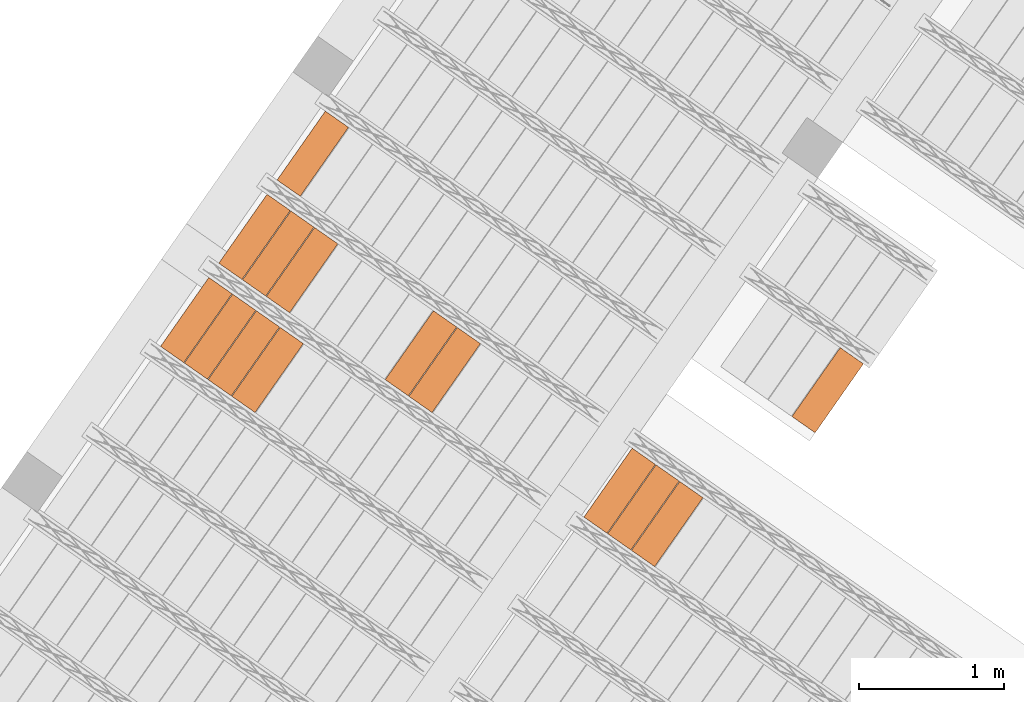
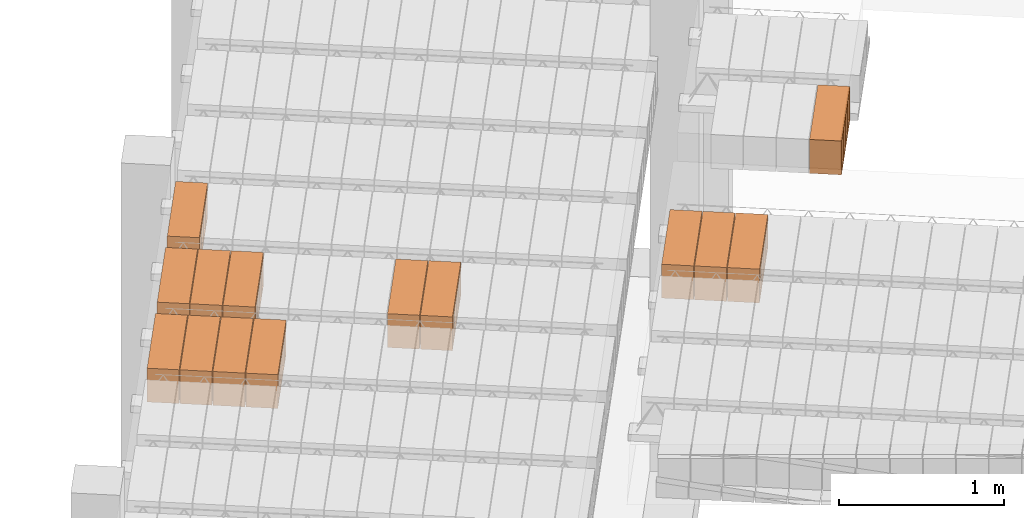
# One storey, part 67 of 80: 14 proxies.
"""IFC2X3 building model written with IfcOpenShell, lengths in metres."""

from ifc_helpers import new_model, entity, si_unit, converted_unit, derived_unit, direction, frame, origin, place, context, subcontext, project, spatial, polyline, outline, extrude, type_object, element, save


model = new_model("IFC2X3")

# Units and contexts
model_context = context("Model", 3, precision=1e-05, world=origin(), true_north=direction((6.123031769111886e-17, 1.0)))
body_context = subcontext(model_context, "Body", "Model", "MODEL_VIEW")
ifc_project = project(units=[si_unit("LENGTHUNIT", "METRE"), si_unit("AREAUNIT", "SQUARE_METRE"), si_unit("VOLUMEUNIT", "CUBIC_METRE"), converted_unit("PLANEANGLEUNIT", "DEGREE", entity("IfcPlaneAngleMeasure", 0.017453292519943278), si_unit("PLANEANGLEUNIT", "RADIAN"), dimensions=[0, 0, 0, 0, 0, 0, 0]), si_unit("MASSUNIT", "GRAM", prefix="KILO"), derived_unit("MASSDENSITYUNIT", [(si_unit("MASSUNIT", "GRAM", prefix="KILO"), 1), (si_unit("LENGTHUNIT", "METRE"), -3)]), derived_unit("IONCONCENTRATIONUNIT", [(si_unit("MASSUNIT", "GRAM", prefix="KILO"), 1), (si_unit("LENGTHUNIT", "METRE"), -3)]), derived_unit("MOMENTOFINERTIAUNIT", [(si_unit("LENGTHUNIT", "METRE"), 4)]), si_unit("TIMEUNIT", "SECOND"), si_unit("FREQUENCYUNIT", "HERTZ"), si_unit("THERMODYNAMICTEMPERATUREUNIT", "DEGREE_CELSIUS"), derived_unit("THERMALTRANSMITTANCEUNIT", [(si_unit("MASSUNIT", "GRAM", prefix="KILO"), 1), (si_unit("THERMODYNAMICTEMPERATUREUNIT", "KELVIN"), -1), (si_unit("TIMEUNIT", "SECOND"), -3)]), derived_unit("THERMALCONDUCTANCEUNIT", [(si_unit("MASSUNIT", "GRAM", prefix="KILO"), 1), (si_unit("THERMODYNAMICTEMPERATUREUNIT", "KELVIN"), -1), (si_unit("TIMEUNIT", "SECOND"), -3), (si_unit("LENGTHUNIT", "METRE"), 1)]), derived_unit("VOLUMETRICFLOWRATEUNIT", [(si_unit("LENGTHUNIT", "METRE", prefix="DECI"), 3), (si_unit("TIMEUNIT", "SECOND"), -1)]), derived_unit("MASSFLOWRATEUNIT", [(si_unit("MASSUNIT", "GRAM", prefix="KILO"), 1), (si_unit("TIMEUNIT", "SECOND"), -1)]), derived_unit("ROTATIONALFREQUENCYUNIT", [(si_unit("TIMEUNIT", "SECOND"), -1)]), si_unit("ELECTRICCURRENTUNIT", "AMPERE"), si_unit("ELECTRICVOLTAGEUNIT", "VOLT"), si_unit("POWERUNIT", "WATT"), si_unit("FORCEUNIT", "NEWTON", prefix="KILO"), si_unit("ILLUMINANCEUNIT", "LUX"), si_unit("LUMINOUSFLUXUNIT", "LUMEN"), si_unit("LUMINOUSINTENSITYUNIT", "CANDELA"), si_unit("ENERGYUNIT", "JOULE"), derived_unit("USERDEFINED", [(si_unit("MASSUNIT", "GRAM", prefix="KILO"), -1), (si_unit("LENGTHUNIT", "METRE"), -2), (si_unit("TIMEUNIT", "SECOND"), 3), (si_unit("LUMINOUSFLUXUNIT", "LUMEN"), 1)]), derived_unit("USERDEFINED", [(si_unit("MASSUNIT", "GRAM", prefix="KILO"), 1), (si_unit("TIMEUNIT", "SECOND"), -3), (si_unit("LENGTHUNIT", "METRE"), 3), (si_unit("ELECTRICCURRENTUNIT", "AMPERE"), -2)]), derived_unit("SOUNDPOWERUNIT", [(si_unit("MASSUNIT", "GRAM", prefix="KILO"), 1), (si_unit("TIMEUNIT", "SECOND"), -3), (si_unit("LENGTHUNIT", "METRE"), 2)]), derived_unit("SOUNDPRESSUREUNIT", [(si_unit("MASSUNIT", "GRAM", prefix="KILO"), 1), (si_unit("LENGTHUNIT", "METRE"), -1), (si_unit("TIMEUNIT", "SECOND"), -2)]), derived_unit("LINEARVELOCITYUNIT", [(si_unit("LENGTHUNIT", "METRE"), 1), (si_unit("TIMEUNIT", "SECOND"), -1)]), si_unit("PRESSUREUNIT", "PASCAL"), derived_unit("USERDEFINED", [(si_unit("MASSUNIT", "GRAM", prefix="KILO"), 1), (si_unit("LENGTHUNIT", "METRE"), -2), (si_unit("TIMEUNIT", "SECOND"), -2)]), derived_unit("LINEARFORCEUNIT", [(si_unit("MASSUNIT", "GRAM", prefix="KILO"), 1), (si_unit("TIMEUNIT", "SECOND"), -2)]), derived_unit("PLANARFORCEUNIT", [(si_unit("MASSUNIT", "GRAM", prefix="KILO"), 1), (si_unit("LENGTHUNIT", "METRE"), -1), (si_unit("TIMEUNIT", "SECOND"), -2)]), derived_unit("SPECIFICHEATCAPACITYUNIT", [(si_unit("THERMODYNAMICTEMPERATUREUNIT", "KELVIN"), -1), (si_unit("LENGTHUNIT", "METRE"), 2), (si_unit("TIMEUNIT", "SECOND"), -2)]), derived_unit("HEATFLUXDENSITYUNIT", [(si_unit("MASSUNIT", "GRAM", prefix="KILO"), 1), (si_unit("TIMEUNIT", "SECOND"), -3)]), derived_unit("HEATINGVALUEUNIT", [(si_unit("LENGTHUNIT", "METRE"), 2), (si_unit("TIMEUNIT", "SECOND"), -2)]), derived_unit("VAPORPERMEABILITYUNIT", [(si_unit("LENGTHUNIT", "METRE"), -1), (si_unit("TIMEUNIT", "SECOND"), 1)]), derived_unit("DYNAMICVISCOSITYUNIT", [(si_unit("MASSUNIT", "GRAM", prefix="KILO"), 1), (si_unit("TIMEUNIT", "SECOND"), -1), (si_unit("LENGTHUNIT", "METRE"), -1)]), derived_unit("THERMALEXPANSIONCOEFFICIENTUNIT", [(si_unit("THERMODYNAMICTEMPERATUREUNIT", "KELVIN"), -1)]), derived_unit("MODULUSOFELASTICITYUNIT", [(si_unit("MASSUNIT", "GRAM", prefix="KILO"), 1), (si_unit("LENGTHUNIT", "METRE"), -1), (si_unit("TIMEUNIT", "SECOND"), -2)]), derived_unit("ISOTHERMALMOISTURECAPACITYUNIT", [(si_unit("MASSUNIT", "GRAM", prefix="KILO"), -1), (si_unit("LENGTHUNIT", "METRE"), 3)]), derived_unit("MOISTUREDIFFUSIVITYUNIT", [(si_unit("TIMEUNIT", "SECOND"), -1), (si_unit("LENGTHUNIT", "METRE"), 2)]), derived_unit("MASSPERLENGTHUNIT", [(si_unit("MASSUNIT", "GRAM", prefix="KILO"), 1), (si_unit("LENGTHUNIT", "METRE"), -1)]), derived_unit("THERMALRESISTANCEUNIT", [(si_unit("MASSUNIT", "GRAM", prefix="KILO"), -1), (si_unit("TIMEUNIT", "SECOND"), 3), (si_unit("THERMODYNAMICTEMPERATUREUNIT", "KELVIN"), 1)]), derived_unit("ACCELERATIONUNIT", [(si_unit("LENGTHUNIT", "METRE"), 1), (si_unit("TIMEUNIT", "SECOND"), -2)]), derived_unit("ANGULARVELOCITYUNIT", [(si_unit("TIMEUNIT", "SECOND"), -1), (si_unit("PLANEANGLEUNIT", "RADIAN"), 1)]), derived_unit("LINEARSTIFFNESSUNIT", [(si_unit("MASSUNIT", "GRAM", prefix="KILO"), 1), (si_unit("TIMEUNIT", "SECOND"), -2)]), derived_unit("WARPINGCONSTANTUNIT", [(si_unit("LENGTHUNIT", "METRE"), 6)]), derived_unit("LINEARMOMENTUNIT", [(si_unit("MASSUNIT", "GRAM", prefix="KILO"), 1), (si_unit("LENGTHUNIT", "METRE"), 1), (si_unit("TIMEUNIT", "SECOND"), -2)]), derived_unit("TORQUEUNIT", [(si_unit("MASSUNIT", "GRAM", prefix="KILO"), 1), (si_unit("LENGTHUNIT", "METRE"), 2), (si_unit("TIMEUNIT", "SECOND"), -2)])], contexts=[model_context])

# Site, building, storey
site_placement = place(None, origin())
site = spatial("IfcSite", under=ifc_project, at=site_placement, Name="Default", CompositionType="ELEMENT")
building_placement = place(site_placement, origin())
building = spatial("IfcBuilding", under=site, at=building_placement, CompositionType="ELEMENT")
storey_placement = place(building_placement, frame((0.0, 0.0, 95.94)))
storey = spatial("IfcBuildingStorey", under=building, at=storey_placement, Name="PB", CompositionType="ELEMENT", Elevation=95.94)

# Proxies
building_element_proxy_type_1 = type_object("IfcBuildingElementProxyType", Name="Bovedilla 7-11 (Paño 2)", PredefinedType="USERDEFINED")
proxy_1_placement = place(storey_placement, origin())
element("IfcBuildingElementProxy", 1, at=proxy_1_placement, inside=storey, type_object=building_element_proxy_type_1, Name="Bovedilla 7-11 (Paño 2)", ObjectType="FORM", context=body_context, shape_type="SweptSolid", body=[
    extrude(outline(polyline([(-0.28999999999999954, -0.12500000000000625), (0.28999999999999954, -0.12500000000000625), (0.28999999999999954, 0.12500000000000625), (-0.28999999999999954, 0.12500000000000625), (-0.28999999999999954, -0.12500000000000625)]), holes=[polyline([(0.2699999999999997, -0.10499999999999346), (0.15500000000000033, -0.10499999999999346), (0.15500000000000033, 0.10499999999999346), (0.2699999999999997, 0.10499999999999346), (0.2699999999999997, 0.042499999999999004), (0.2699999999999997, -0.10499999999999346)]), polyline([(0.00999999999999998, -0.10499999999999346), (0.00999999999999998, 0.10499999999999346), (0.1350000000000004, 0.10499999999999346), (0.1350000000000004, -0.10499999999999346), (0.00999999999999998, -0.10499999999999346)]), polyline([(-0.1350000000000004, 0.10499999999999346), (-0.00999999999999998, 0.10499999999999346), (-0.00999999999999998, -0.10499999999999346), (-0.1350000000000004, -0.10499999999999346), (-0.1350000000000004, 0.10499999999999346)]), polyline([(-0.2699999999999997, -0.10499999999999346), (-0.2699999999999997, 0.042499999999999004), (-0.2699999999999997, 0.10499999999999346), (-0.15500000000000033, 0.10499999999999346), (-0.15500000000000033, -0.10499999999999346), (-0.2699999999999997, -0.10499999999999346)])]), frame((1.994544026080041, 6.050474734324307, 2.945000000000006), z_axis=(0.8191520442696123, -0.5735764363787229, 0.0), x_axis=(-0.5735764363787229, -0.8191520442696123, 0.0)), (0.0, 0.0, 1.0), 0.19499999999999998),
])
building_element_proxy_type_2 = type_object("IfcBuildingElementProxyType", Name="Bovedilla 7-12 (Paño 2)", PredefinedType="USERDEFINED")
proxy_2_placement = place(storey_placement, origin())
element("IfcBuildingElementProxy", 2, at=proxy_2_placement, inside=storey, type_object=building_element_proxy_type_2, Name="Bovedilla 7-12 (Paño 2)", ObjectType="FORM", context=body_context, shape_type="SweptSolid", body=[
    extrude(outline(polyline([(-0.28999999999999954, -0.12500000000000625), (0.28999999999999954, -0.12500000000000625), (0.28999999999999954, 0.12500000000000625), (-0.28999999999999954, 0.12500000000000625), (-0.28999999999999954, -0.12500000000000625)]), holes=[polyline([(0.2699999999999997, -0.10499999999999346), (0.15500000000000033, -0.10499999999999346), (0.15500000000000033, 0.10499999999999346), (0.2699999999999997, 0.10499999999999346), (0.2699999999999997, 0.042499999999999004), (0.2699999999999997, -0.10499999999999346)]), polyline([(0.00999999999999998, -0.10499999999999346), (0.00999999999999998, 0.10499999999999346), (0.1350000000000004, 0.10499999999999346), (0.1350000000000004, -0.10499999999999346), (0.00999999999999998, -0.10499999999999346)]), polyline([(-0.1350000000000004, 0.10499999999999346), (-0.00999999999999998, 0.10499999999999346), (-0.00999999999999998, -0.10499999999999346), (-0.1350000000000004, -0.10499999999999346), (-0.1350000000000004, 0.10499999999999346)]), polyline([(-0.2699999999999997, -0.10499999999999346), (-0.2699999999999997, 0.042499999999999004), (-0.2699999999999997, 0.10499999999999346), (-0.15500000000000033, 0.10499999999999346), (-0.15500000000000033, -0.10499999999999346), (-0.2699999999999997, -0.10499999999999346)])]), frame((1.8307136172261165, 6.165190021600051, 2.945000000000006), z_axis=(0.8191520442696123, -0.5735764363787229, 0.0), x_axis=(-0.5735764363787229, -0.8191520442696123, 0.0)), (0.0, 0.0, 1.0), 0.19499999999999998),
])
building_element_proxy_type_3 = type_object("IfcBuildingElementProxyType", Name="Bovedilla 7-13 (Paño 2)", PredefinedType="USERDEFINED")
proxy_3_placement = place(storey_placement, origin())
element("IfcBuildingElementProxy", 3, at=proxy_3_placement, inside=storey, type_object=building_element_proxy_type_3, Name="Bovedilla 7-13 (Paño 2)", ObjectType="FORM", context=body_context, shape_type="SweptSolid", body=[
    extrude(outline(polyline([(-0.28999999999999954, -0.12500000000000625), (0.28999999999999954, -0.12500000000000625), (0.28999999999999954, 0.12500000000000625), (-0.28999999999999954, 0.12500000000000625), (-0.28999999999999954, -0.12500000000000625)]), holes=[polyline([(0.2699999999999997, -0.10499999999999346), (0.15500000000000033, -0.10499999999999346), (0.15500000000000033, 0.10499999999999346), (0.2699999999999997, 0.10499999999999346), (0.2699999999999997, 0.042499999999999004), (0.2699999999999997, -0.10499999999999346)]), polyline([(0.00999999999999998, -0.10499999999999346), (0.00999999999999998, 0.10499999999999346), (0.1350000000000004, 0.10499999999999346), (0.1350000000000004, -0.10499999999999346), (0.00999999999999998, -0.10499999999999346)]), polyline([(-0.1350000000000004, 0.10499999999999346), (-0.00999999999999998, 0.10499999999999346), (-0.00999999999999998, -0.10499999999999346), (-0.1350000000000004, -0.10499999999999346), (-0.1350000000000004, 0.10499999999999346)]), polyline([(-0.2699999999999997, -0.10499999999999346), (-0.2699999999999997, 0.042499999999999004), (-0.2699999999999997, 0.10499999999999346), (-0.15500000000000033, 0.10499999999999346), (-0.15500000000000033, -0.10499999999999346), (-0.2699999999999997, -0.10499999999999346)])]), frame((1.666883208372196, 6.279905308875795, 2.945000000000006), z_axis=(0.8191520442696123, -0.5735764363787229, 0.0), x_axis=(-0.5735764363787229, -0.8191520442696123, 0.0)), (0.0, 0.0, 1.0), 0.19499999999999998),
])
building_element_proxy_type_4 = type_object("IfcBuildingElementProxyType", Name="Bovedilla 7-14 (Paño 2)", PredefinedType="USERDEFINED")
proxy_4_placement = place(storey_placement, origin())
element("IfcBuildingElementProxy", 4, at=proxy_4_placement, inside=storey, type_object=building_element_proxy_type_4, Name="Bovedilla 7-14 (Paño 2)", ObjectType="FORM", context=body_context, shape_type="SweptSolid", body=[
    extrude(outline(polyline([(-0.28999999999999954, -0.12500000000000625), (0.28999999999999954, -0.12500000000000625), (0.28999999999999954, 0.12500000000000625), (-0.28999999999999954, 0.12500000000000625), (-0.28999999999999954, -0.12500000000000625)]), holes=[polyline([(0.2699999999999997, -0.10499999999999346), (0.15500000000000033, -0.10499999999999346), (0.15500000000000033, 0.10499999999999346), (0.2699999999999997, 0.10499999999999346), (0.2699999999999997, 0.042499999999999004), (0.2699999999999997, -0.10499999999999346)]), polyline([(0.00999999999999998, -0.10499999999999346), (0.00999999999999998, 0.10499999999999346), (0.1350000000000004, 0.10499999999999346), (0.1350000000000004, -0.10499999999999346), (0.00999999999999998, -0.10499999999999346)]), polyline([(-0.1350000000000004, 0.10499999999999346), (-0.00999999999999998, 0.10499999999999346), (-0.00999999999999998, -0.10499999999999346), (-0.1350000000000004, -0.10499999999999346), (-0.1350000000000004, 0.10499999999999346)]), polyline([(-0.2699999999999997, -0.10499999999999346), (-0.2699999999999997, 0.042499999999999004), (-0.2699999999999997, 0.10499999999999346), (-0.15500000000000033, 0.10499999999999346), (-0.15500000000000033, -0.10499999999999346), (-0.2699999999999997, -0.10499999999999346)])]), frame((1.5030527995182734, 6.3946205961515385, 2.945000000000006), z_axis=(0.8191520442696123, -0.5735764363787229, 0.0), x_axis=(-0.5735764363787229, -0.8191520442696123, 0.0)), (0.0, 0.0, 1.0), 0.19499999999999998),
])
building_element_proxy_type_5 = type_object("IfcBuildingElementProxyType", Name="Bovedilla 8-6 (Paño 2)", PredefinedType="USERDEFINED")
proxy_5_placement = place(storey_placement, origin())
element("IfcBuildingElementProxy", 5, at=proxy_5_placement, inside=storey, type_object=building_element_proxy_type_5, Name="Bovedilla 8-6 (Paño 2)", ObjectType="FORM", context=body_context, shape_type="SweptSolid", body=[
    extrude(outline(polyline([(-0.28999999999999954, -0.12500000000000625), (0.28999999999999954, -0.12500000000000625), (0.28999999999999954, 0.12500000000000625), (-0.28999999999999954, 0.12500000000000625), (-0.28999999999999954, -0.12500000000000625)]), holes=[polyline([(0.2699999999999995, -0.10499999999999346), (0.15500000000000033, -0.10499999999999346), (0.15500000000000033, 0.10499999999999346), (0.2699999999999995, 0.10499999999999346), (0.2699999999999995, 0.042499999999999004), (0.2699999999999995, -0.10499999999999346)]), polyline([(0.009999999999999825, -0.10499999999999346), (0.009999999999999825, 0.10499999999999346), (0.1350000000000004, 0.10499999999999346), (0.1350000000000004, -0.10499999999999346), (0.009999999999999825, -0.10499999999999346)]), polyline([(-0.1350000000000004, 0.10499999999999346), (-0.009999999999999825, 0.10499999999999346), (-0.009999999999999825, -0.10499999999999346), (-0.1350000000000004, -0.10499999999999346), (-0.1350000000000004, 0.10499999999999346)]), polyline([(-0.2699999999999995, -0.10499999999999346), (-0.2699999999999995, 0.042499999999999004), (-0.2699999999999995, 0.10499999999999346), (-0.15500000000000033, 0.10499999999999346), (-0.15500000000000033, -0.10499999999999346), (-0.2699999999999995, -0.10499999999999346)])]), frame((3.21519957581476, 6.050304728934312, 2.945000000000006), z_axis=(0.8191520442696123, -0.5735764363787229, 0.0), x_axis=(-0.5735764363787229, -0.8191520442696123, 0.0)), (0.0, 0.0, 1.0), 0.19499999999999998),
])
building_element_proxy_type_6 = type_object("IfcBuildingElementProxyType", Name="Bovedilla 8-7 (Paño 2)", PredefinedType="USERDEFINED")
proxy_6_placement = place(storey_placement, origin())
element("IfcBuildingElementProxy", 6, at=proxy_6_placement, inside=storey, type_object=building_element_proxy_type_6, Name="Bovedilla 8-7 (Paño 2)", ObjectType="FORM", context=body_context, shape_type="SweptSolid", body=[
    extrude(outline(polyline([(-0.28999999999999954, -0.12500000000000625), (0.28999999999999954, -0.12500000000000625), (0.28999999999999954, 0.12500000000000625), (-0.28999999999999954, 0.12500000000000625), (-0.28999999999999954, -0.12500000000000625)]), holes=[polyline([(0.2699999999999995, -0.10499999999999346), (0.15500000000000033, -0.10499999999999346), (0.15500000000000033, 0.10499999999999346), (0.2699999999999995, 0.10499999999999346), (0.2699999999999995, 0.042499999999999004), (0.2699999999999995, -0.10499999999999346)]), polyline([(0.009999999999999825, -0.10499999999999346), (0.009999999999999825, 0.10499999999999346), (0.1350000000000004, 0.10499999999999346), (0.1350000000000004, -0.10499999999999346), (0.009999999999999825, -0.10499999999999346)]), polyline([(-0.1350000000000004, 0.10499999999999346), (-0.009999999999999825, 0.10499999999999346), (-0.009999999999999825, -0.10499999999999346), (-0.1350000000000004, -0.10499999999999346), (-0.1350000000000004, 0.10499999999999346)]), polyline([(-0.2699999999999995, -0.10499999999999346), (-0.2699999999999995, 0.042499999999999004), (-0.2699999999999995, 0.10499999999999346), (-0.15500000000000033, 0.10499999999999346), (-0.15500000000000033, -0.10499999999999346), (-0.2699999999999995, -0.10499999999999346)])]), frame((3.0513691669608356, 6.165020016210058, 2.945000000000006), z_axis=(0.8191520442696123, -0.5735764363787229, 0.0), x_axis=(-0.5735764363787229, -0.8191520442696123, 0.0)), (0.0, 0.0, 1.0), 0.19499999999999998),
])
building_element_proxy_type_7 = type_object("IfcBuildingElementProxyType", Name="Bovedilla 8-12 (Paño 2)", PredefinedType="USERDEFINED")
proxy_7_placement = place(storey_placement, origin())
element("IfcBuildingElementProxy", 7, at=proxy_7_placement, inside=storey, type_object=building_element_proxy_type_7, Name="Bovedilla 8-12 (Paño 2)", ObjectType="FORM", context=body_context, shape_type="SweptSolid", body=[
    extrude(outline(polyline([(-0.28999999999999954, -0.12500000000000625), (0.28999999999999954, -0.12500000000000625), (0.28999999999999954, 0.12500000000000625), (-0.28999999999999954, 0.12500000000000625), (-0.28999999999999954, -0.12500000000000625)]), holes=[polyline([(0.2699999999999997, -0.10499999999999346), (0.15500000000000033, -0.10499999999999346), (0.15500000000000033, 0.10499999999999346), (0.2699999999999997, 0.10499999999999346), (0.2699999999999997, 0.042499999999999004), (0.2699999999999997, -0.10499999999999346)]), polyline([(0.00999999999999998, -0.10499999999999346), (0.00999999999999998, 0.10499999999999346), (0.1350000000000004, 0.10499999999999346), (0.1350000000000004, -0.10499999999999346), (0.00999999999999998, -0.10499999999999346)]), polyline([(-0.1350000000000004, 0.10499999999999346), (-0.00999999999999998, 0.10499999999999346), (-0.00999999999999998, -0.10499999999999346), (-0.1350000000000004, -0.10499999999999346), (-0.1350000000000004, 0.10499999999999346)]), polyline([(-0.2699999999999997, -0.10499999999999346), (-0.2699999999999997, 0.042499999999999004), (-0.2699999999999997, 0.10499999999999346), (-0.15500000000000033, 0.10499999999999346), (-0.15500000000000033, -0.10499999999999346), (-0.2699999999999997, -0.10499999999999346)])]), frame((2.232217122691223, 6.73859645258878, 2.945000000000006), z_axis=(0.8191520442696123, -0.5735764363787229, 0.0), x_axis=(-0.5735764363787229, -0.8191520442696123, 0.0)), (0.0, 0.0, 1.0), 0.19499999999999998),
])
building_element_proxy_type_8 = type_object("IfcBuildingElementProxyType", Name="Bovedilla 8-13 (Paño 2)", PredefinedType="USERDEFINED")
proxy_8_placement = place(storey_placement, origin())
element("IfcBuildingElementProxy", 8, at=proxy_8_placement, inside=storey, type_object=building_element_proxy_type_8, Name="Bovedilla 8-13 (Paño 2)", ObjectType="FORM", context=body_context, shape_type="SweptSolid", body=[
    extrude(outline(polyline([(-0.28999999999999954, -0.12500000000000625), (0.28999999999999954, -0.12500000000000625), (0.28999999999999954, 0.12500000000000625), (-0.28999999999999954, 0.12500000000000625), (-0.28999999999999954, -0.12500000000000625)]), holes=[polyline([(0.2699999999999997, -0.10499999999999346), (0.15500000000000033, -0.10499999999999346), (0.15500000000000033, 0.10499999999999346), (0.2699999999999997, 0.10499999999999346), (0.2699999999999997, 0.042499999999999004), (0.2699999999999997, -0.10499999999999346)]), polyline([(0.00999999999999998, -0.10499999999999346), (0.00999999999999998, 0.10499999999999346), (0.1350000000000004, 0.10499999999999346), (0.1350000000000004, -0.10499999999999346), (0.00999999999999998, -0.10499999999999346)]), polyline([(-0.1350000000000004, 0.10499999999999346), (-0.00999999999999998, 0.10499999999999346), (-0.00999999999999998, -0.10499999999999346), (-0.1350000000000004, -0.10499999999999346), (-0.1350000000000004, 0.10499999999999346)]), polyline([(-0.2699999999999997, -0.10499999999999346), (-0.2699999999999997, 0.042499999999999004), (-0.2699999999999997, 0.10499999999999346), (-0.15500000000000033, 0.10499999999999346), (-0.15500000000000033, -0.10499999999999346), (-0.2699999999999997, -0.10499999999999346)])]), frame((2.0683867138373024, 6.853311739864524, 2.945000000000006), z_axis=(0.8191520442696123, -0.5735764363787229, 0.0), x_axis=(-0.5735764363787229, -0.8191520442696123, 0.0)), (0.0, 0.0, 1.0), 0.19499999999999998),
])
building_element_proxy_type_9 = type_object("IfcBuildingElementProxyType", Name="Bovedilla 8-14 (Paño 2)", PredefinedType="USERDEFINED")
proxy_9_placement = place(storey_placement, origin())
element("IfcBuildingElementProxy", 9, at=proxy_9_placement, inside=storey, type_object=building_element_proxy_type_9, Name="Bovedilla 8-14 (Paño 2)", ObjectType="FORM", context=body_context, shape_type="SweptSolid", body=[
    extrude(outline(polyline([(-0.28999999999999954, -0.12500000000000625), (0.28999999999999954, -0.12500000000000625), (0.28999999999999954, 0.12500000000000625), (-0.28999999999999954, 0.12500000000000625), (-0.28999999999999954, -0.12500000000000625)]), holes=[polyline([(0.2699999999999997, -0.10499999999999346), (0.15500000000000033, -0.10499999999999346), (0.15500000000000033, 0.10499999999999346), (0.2699999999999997, 0.10499999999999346), (0.2699999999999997, 0.042499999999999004), (0.2699999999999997, -0.10499999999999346)]), polyline([(0.00999999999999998, -0.10499999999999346), (0.00999999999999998, 0.10499999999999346), (0.1350000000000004, 0.10499999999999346), (0.1350000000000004, -0.10499999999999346), (0.00999999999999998, -0.10499999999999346)]), polyline([(-0.1350000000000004, 0.10499999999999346), (-0.00999999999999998, 0.10499999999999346), (-0.00999999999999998, -0.10499999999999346), (-0.1350000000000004, -0.10499999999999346), (-0.1350000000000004, 0.10499999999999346)]), polyline([(-0.2699999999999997, -0.10499999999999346), (-0.2699999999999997, 0.042499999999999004), (-0.2699999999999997, 0.10499999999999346), (-0.15500000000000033, 0.10499999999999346), (-0.15500000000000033, -0.10499999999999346), (-0.2699999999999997, -0.10499999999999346)])]), frame((1.90455630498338, 6.968027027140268, 2.945000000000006), z_axis=(0.8191520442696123, -0.5735764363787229, 0.0), x_axis=(-0.5735764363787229, -0.8191520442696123, 0.0)), (0.0, 0.0, 1.0), 0.19499999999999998),
])
building_element_proxy_type_10 = type_object("IfcBuildingElementProxyType", Name="Bovedilla 9-14 (Paño 2)", PredefinedType="USERDEFINED")
proxy_10_placement = place(storey_placement, origin())
element("IfcBuildingElementProxy", 10, at=proxy_10_placement, inside=storey, type_object=building_element_proxy_type_10, Name="Bovedilla 9-14 (Paño 2)", ObjectType="FORM", context=body_context, shape_type="SweptSolid", body=[
    extrude(outline(polyline([(-0.28999999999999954, -0.12500000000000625), (0.28999999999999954, -0.12500000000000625), (0.28999999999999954, 0.12500000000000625), (-0.28999999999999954, 0.12500000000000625), (-0.28999999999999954, -0.12500000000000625)]), holes=[polyline([(0.2699999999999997, -0.10499999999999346), (0.15500000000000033, -0.10499999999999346), (0.15500000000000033, 0.10499999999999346), (0.2699999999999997, 0.10499999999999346), (0.2699999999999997, 0.042499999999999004), (0.2699999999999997, -0.10499999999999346)]), polyline([(0.00999999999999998, -0.10499999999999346), (0.00999999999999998, 0.10499999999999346), (0.1350000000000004, 0.10499999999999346), (0.1350000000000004, -0.10499999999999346), (0.00999999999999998, -0.10499999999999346)]), polyline([(-0.1350000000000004, 0.10499999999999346), (-0.00999999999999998, 0.10499999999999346), (-0.00999999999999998, -0.10499999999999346), (-0.1350000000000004, -0.10499999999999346), (-0.1350000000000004, 0.10499999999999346)]), polyline([(-0.2699999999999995, -0.10499999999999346), (-0.2699999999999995, 0.042499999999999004), (-0.2699999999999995, 0.10499999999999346), (-0.15500000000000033, 0.10499999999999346), (-0.15500000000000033, -0.10499999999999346), (-0.2699999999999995, -0.10499999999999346)])]), frame((2.306059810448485, 7.541433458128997, 2.945000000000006), z_axis=(0.8191520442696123, -0.5735764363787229, 0.0), x_axis=(-0.5735764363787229, -0.8191520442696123, 0.0)), (0.0, 0.0, 1.0), 0.19499999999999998),
])
building_element_proxy_type_11 = type_object("IfcBuildingElementProxyType", Name="Bovedilla 3-23 (Paño 6)", PredefinedType="USERDEFINED")
proxy_11_placement = place(storey_placement, origin())
element("IfcBuildingElementProxy", 11, at=proxy_11_placement, inside=storey, type_object=building_element_proxy_type_11, Name="Bovedilla 3-23 (Paño 6)", ObjectType="FORM", context=body_context, shape_type="SweptSolid", body=[
    extrude(outline(polyline([(-0.28999999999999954, -0.12500000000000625), (0.29, -0.12500000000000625), (0.29, 0.12500000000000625), (-0.28999999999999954, 0.12500000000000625), (-0.28999999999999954, -0.12500000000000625)]), holes=[polyline([(0.27000000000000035, -0.10499999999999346), (0.15500000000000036, -0.10499999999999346), (0.15500000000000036, 0.10499999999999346), (0.27000000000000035, 0.10499999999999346), (0.27000000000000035, 0.042499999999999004), (0.27000000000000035, -0.10499999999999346)]), polyline([(0.009999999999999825, -0.10499999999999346), (0.009999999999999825, 0.10499999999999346), (0.1350000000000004, 0.10499999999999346), (0.1350000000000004, -0.10499999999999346), (0.009999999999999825, -0.10499999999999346)]), polyline([(-0.1350000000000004, 0.10499999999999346), (-0.009999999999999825, 0.10499999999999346), (-0.009999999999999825, -0.10499999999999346), (-0.1350000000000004, -0.10499999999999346), (-0.1350000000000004, 0.10499999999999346)]), polyline([(-0.26999999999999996, -0.10499999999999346), (-0.26999999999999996, 0.042499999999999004), (-0.26999999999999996, 0.10499999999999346), (-0.15500000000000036, 0.10499999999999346), (-0.15500000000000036, -0.10499999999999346), (-0.26999999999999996, -0.10499999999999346)])]), frame((4.749107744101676, 4.988458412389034, 3.4050000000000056), z_axis=(0.8191520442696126, -0.5735764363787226, 0.0), x_axis=(-0.5735764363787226, -0.8191520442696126, 0.0)), (0.0, 0.0, 1.0), 0.19499999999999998),
])
building_element_proxy_type_12 = type_object("IfcBuildingElementProxyType", Name="Bovedilla 3-24 (Paño 6)", PredefinedType="USERDEFINED")
proxy_12_placement = place(storey_placement, origin())
element("IfcBuildingElementProxy", 12, at=proxy_12_placement, inside=storey, type_object=building_element_proxy_type_12, Name="Bovedilla 3-24 (Paño 6)", ObjectType="FORM", context=body_context, shape_type="SweptSolid", body=[
    extrude(outline(polyline([(-0.28999999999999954, -0.12500000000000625), (0.29, -0.12500000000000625), (0.29, 0.12500000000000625), (-0.28999999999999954, 0.12500000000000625), (-0.28999999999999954, -0.12500000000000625)]), holes=[polyline([(0.26999999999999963, -0.10499999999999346), (0.15500000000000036, -0.10499999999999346), (0.15500000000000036, 0.10499999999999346), (0.26999999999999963, 0.10499999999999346), (0.26999999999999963, 0.042499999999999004), (0.26999999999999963, -0.10499999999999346)]), polyline([(0.009999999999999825, -0.10499999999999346), (0.009999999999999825, 0.10499999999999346), (0.1350000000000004, 0.10499999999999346), (0.1350000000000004, -0.10499999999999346), (0.009999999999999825, -0.10499999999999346)]), polyline([(-0.1350000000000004, 0.10499999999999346), (-0.009999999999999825, 0.10499999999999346), (-0.009999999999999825, -0.10499999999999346), (-0.1350000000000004, -0.10499999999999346), (-0.1350000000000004, 0.10499999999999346)]), polyline([(-0.26999999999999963, -0.10499999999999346), (-0.26999999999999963, 0.042499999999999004), (-0.26999999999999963, 0.10499999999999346), (-0.15500000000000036, 0.10499999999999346), (-0.15500000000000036, -0.10499999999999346), (-0.26999999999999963, -0.10499999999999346)])]), frame((4.5852773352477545, 5.103173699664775, 3.4050000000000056), z_axis=(0.8191520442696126, -0.5735764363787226, 0.0), x_axis=(-0.5735764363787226, -0.8191520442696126, 0.0)), (0.0, 0.0, 1.0), 0.19499999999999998),
])
building_element_proxy_type_13 = type_object("IfcBuildingElementProxyType", Name="Bovedilla 3-25 (Paño 6)", PredefinedType="USERDEFINED")
proxy_13_placement = place(storey_placement, origin())
element("IfcBuildingElementProxy", 13, at=proxy_13_placement, inside=storey, type_object=building_element_proxy_type_13, Name="Bovedilla 3-25 (Paño 6)", ObjectType="FORM", context=body_context, shape_type="SweptSolid", body=[
    extrude(outline(polyline([(-0.28999999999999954, -0.12500000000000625), (0.28999999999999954, -0.12500000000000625), (0.28999999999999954, 0.12500000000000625), (-0.28999999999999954, 0.12500000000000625), (-0.28999999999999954, -0.12500000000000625)]), holes=[polyline([(0.2699999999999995, -0.10499999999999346), (0.15500000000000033, -0.10499999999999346), (0.15500000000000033, 0.10499999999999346), (0.2699999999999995, 0.10499999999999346), (0.2699999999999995, 0.042499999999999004), (0.2699999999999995, -0.10499999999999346)]), polyline([(0.009999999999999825, -0.10499999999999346), (0.009999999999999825, 0.10499999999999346), (0.1350000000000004, 0.10499999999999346), (0.1350000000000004, -0.10499999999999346), (0.009999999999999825, -0.10499999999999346)]), polyline([(-0.1350000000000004, 0.10499999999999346), (-0.009999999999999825, 0.10499999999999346), (-0.009999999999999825, -0.10499999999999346), (-0.1350000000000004, -0.10499999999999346), (-0.1350000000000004, 0.10499999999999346)]), polyline([(-0.2699999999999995, -0.10499999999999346), (-0.2699999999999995, 0.042499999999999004), (-0.2699999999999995, 0.10499999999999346), (-0.15500000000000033, 0.10499999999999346), (-0.15500000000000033, -0.10499999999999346), (-0.2699999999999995, -0.10499999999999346)])]), frame((4.421446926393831, 5.217888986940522, 3.4050000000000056), z_axis=(0.8191520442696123, -0.5735764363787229, 0.0), x_axis=(-0.5735764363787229, -0.8191520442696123, 0.0)), (0.0, 0.0, 1.0), 0.19499999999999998),
])
building_element_proxy_type_14 = type_object("IfcBuildingElementProxyType", Name="Bovedilla 0-1 (Paño 8)", PredefinedType="USERDEFINED")
proxy_14_placement = place(storey_placement, origin())
element("IfcBuildingElementProxy", 14, at=proxy_14_placement, inside=storey, type_object=building_element_proxy_type_14, Name="Bovedilla 0-1 (Paño 8)", ObjectType="FORM", context=body_context, shape_type="SweptSolid", body=[
    extrude(outline(polyline([(-0.28999999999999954, -0.12500000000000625), (0.28999999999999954, -0.12500000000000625), (0.28999999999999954, 0.12500000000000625), (-0.28999999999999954, 0.12500000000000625), (-0.28999999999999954, -0.12500000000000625)]), holes=[polyline([(0.26999999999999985, -0.10499999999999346), (0.15500000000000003, -0.10499999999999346), (0.15500000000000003, 0.10499999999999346), (0.26999999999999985, 0.10499999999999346), (0.26999999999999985, 0.042499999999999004), (0.26999999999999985, -0.10499999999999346)]), polyline([(0.009999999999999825, -0.10499999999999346), (0.009999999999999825, 0.10499999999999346), (0.1350000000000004, 0.10499999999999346), (0.1350000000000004, -0.10499999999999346), (0.009999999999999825, -0.10499999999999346)]), polyline([(-0.1350000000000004, 0.10499999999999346), (-0.009999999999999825, 0.10499999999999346), (-0.009999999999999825, -0.10499999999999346), (-0.1350000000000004, -0.10499999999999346), (-0.1350000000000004, 0.10499999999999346)]), polyline([(-0.26999999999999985, -0.10499999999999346), (-0.26999999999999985, 0.042499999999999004), (-0.26999999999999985, 0.10499999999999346), (-0.15500000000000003, 0.10499999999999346), (-0.15500000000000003, -0.10499999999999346), (-0.26999999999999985, -0.10499999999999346)])]), frame((5.855633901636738, 5.911147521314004, 3.4050000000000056), z_axis=(0.8191520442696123, -0.5735764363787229, 0.0), x_axis=(-0.5735764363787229, -0.8191520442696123, 0.0)), (0.0, 0.0, 1.0), 0.19499999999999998),
])

save(model, "model.ifc")
